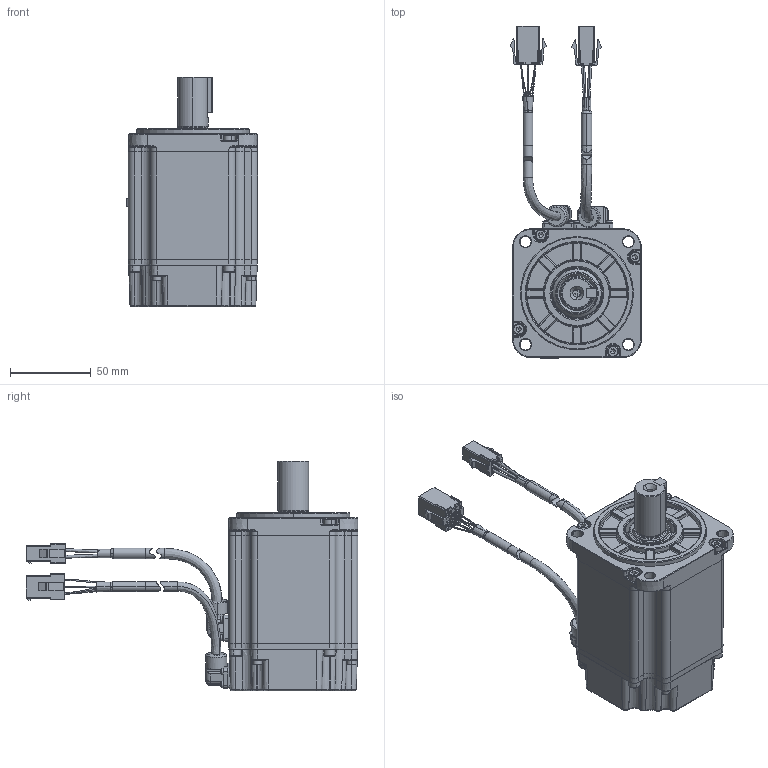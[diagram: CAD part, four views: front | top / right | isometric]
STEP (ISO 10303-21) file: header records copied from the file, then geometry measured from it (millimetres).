
FILE_DESCRIPTION (( 'STEP AP214' ), '1' );
FILE_NAME ('4030807-↓↓↓↓_80萇儂_DM1M-08A80↓8S_A0.STEP', '2020-05-05T01:34:16', ( '' ), ( '' ), 'SwSTEP 2.0', 'SolidWorks 2018', '' );
FILE_SCHEMA (( 'AUTOMOTIVE_DESIGN' ));
Length unit declared in the file: millimetre
Products named in the file (1): 4030807-↓↓↓↓_80萇儂_DM1M-08A80↓8S_A0
Bounding box: 81.15 x 205.5 x 142.4 mm (x, y, z)
Surface area: 67682 mm2 (no closed solid volume)
Topology: 0 solids, 67 shells, 1381 faces, 4517 edges, 3082 vertices
Faces by surface type: plane 602, cylinder 318, cone 156, bspline 148, torus 132, sphere 25
Entity records: 69350 total; most frequent: CARTESIAN_POINT 15985, DIRECTION 7927, ORIENTED_EDGE 7344, EDGE_CURVE 4479, VERTEX_POINT 3082, AXIS2_PLACEMENT_3D 2697, LINE 2533, VECTOR 2533
